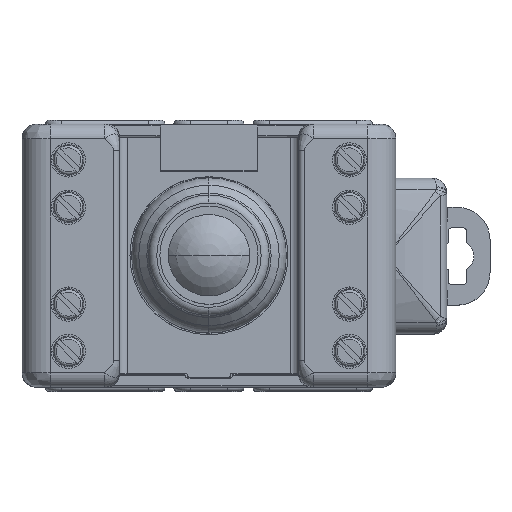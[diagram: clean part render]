
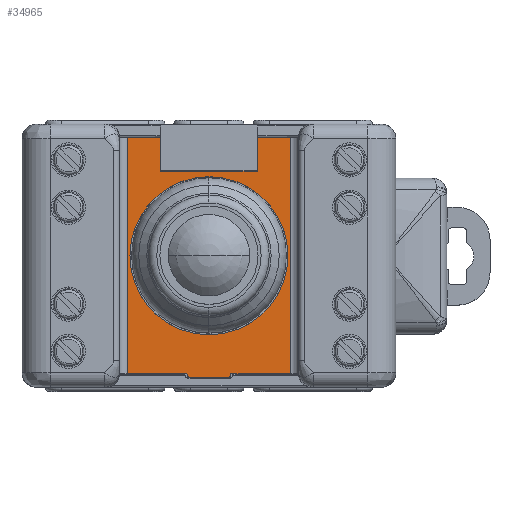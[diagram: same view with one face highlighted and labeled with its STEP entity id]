
A CAD part, top view. The second image highlights one B-rep face of the part: STEP entity #34965.
In plain terms, the highlighted planar face has unit normal (0, 0, 1).
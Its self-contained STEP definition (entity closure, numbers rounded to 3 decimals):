
#1494=DIRECTION('',(0.,-1.,0.));
#1495=VECTOR('',#1494,4.05);
#1496=CARTESIAN_POINT('',(-6.,14.5,0.));
#1497=LINE('',#1496,#1495);
#1498=CARTESIAN_POINT('',(-5.9,10.45,0.));
#1499=DIRECTION('',(0.,0.,-1.));
#1500=DIRECTION('',(0.,-1.,0.));
#1501=AXIS2_PLACEMENT_3D('',#1498,#1499,#1500);
#1503=DIRECTION('',(1.,0.,0.));
#1504=VECTOR('',#1503,11.8);
#1505=CARTESIAN_POINT('',(-5.9,10.35,0.));
#1506=LINE('',#1505,#1504);
#1507=CARTESIAN_POINT('',(5.9,10.45,0.));
#1508=DIRECTION('',(0.,0.,-1.));
#1509=DIRECTION('',(1.,0.,0.));
#1510=AXIS2_PLACEMENT_3D('',#1507,#1508,#1509);
#1512=DIRECTION('',(0.,-1.,0.));
#1513=VECTOR('',#1512,4.05);
#1514=CARTESIAN_POINT('',(6.,14.5,0.));
#1515=LINE('',#1514,#1513);
#1516=DIRECTION('',(-1.,0.,0.));
#1517=VECTOR('',#1516,4.);
#1518=CARTESIAN_POINT('',(10.,14.5,0.));
#1519=LINE('',#1518,#1517);
#1520=DIRECTION('',(-1.,0.,0.));
#1521=VECTOR('',#1520,7.3);
#1522=CARTESIAN_POINT('',(10.,-14.5,0.));
#1523=LINE('',#1522,#1521);
#1524=DIRECTION('',(-1.,0.,0.));
#1525=VECTOR('',#1524,4.4);
#1526=CARTESIAN_POINT('',(2.2,-15.,0.));
#1527=LINE('',#1526,#1525);
#1528=DIRECTION('',(1.,0.,0.));
#1529=VECTOR('',#1528,7.3);
#1530=CARTESIAN_POINT('',(-10.,-14.5,0.));
#1531=LINE('',#1530,#1529);
#1532=DIRECTION('',(1.,0.,0.));
#1533=VECTOR('',#1532,4.);
#1534=CARTESIAN_POINT('',(-10.,14.5,0.));
#1535=LINE('',#1534,#1533);
#1536=CARTESIAN_POINT('',(0.,0.,0.));
#1537=DIRECTION('',(0.,0.,1.));
#1538=DIRECTION('',(1.,0.,0.));
#1539=AXIS2_PLACEMENT_3D('',#1536,#1537,#1538);
#1541=CARTESIAN_POINT('',(0.,0.,0.));
#1542=DIRECTION('',(0.,0.,1.));
#1543=DIRECTION('',(-1.,0.,0.));
#1544=AXIS2_PLACEMENT_3D('',#1541,#1542,#1543);
#1699=DIRECTION('',(0.,1.,0.));
#1700=VECTOR('',#1699,29.);
#1701=CARTESIAN_POINT('',(-10.,-14.5,0.));
#1702=LINE('',#1701,#1700);
#2488=CARTESIAN_POINT('',(-2.2,-14.5,0.));
#2489=DIRECTION('',(0.,0.,1.));
#2490=DIRECTION('',(-1.,0.,0.));
#2491=AXIS2_PLACEMENT_3D('',#2488,#2489,#2490);
#2511=CARTESIAN_POINT('',(2.2,-14.5,0.));
#2512=DIRECTION('',(0.,0.,1.));
#2513=DIRECTION('',(0.,-1.,0.));
#2514=AXIS2_PLACEMENT_3D('',#2511,#2512,#2513);
#3153=DIRECTION('',(0.,1.,0.));
#3154=VECTOR('',#3153,29.);
#3155=CARTESIAN_POINT('',(10.,-14.5,0.));
#3156=LINE('',#3155,#3154);
#28488=CARTESIAN_POINT('',(-10.,-14.5,0.));
#28489=CARTESIAN_POINT('',(-10.,14.5,0.));
#28490=VERTEX_POINT('',#28488);
#28491=VERTEX_POINT('',#28489);
#28500=CARTESIAN_POINT('',(10.,-14.5,0.));
#28501=CARTESIAN_POINT('',(10.,14.5,0.));
#28502=VERTEX_POINT('',#28500);
#28503=VERTEX_POINT('',#28501);
#28640=CARTESIAN_POINT('',(9.7,0.,0.));
#28641=VERTEX_POINT('',#28640);
#28642=CARTESIAN_POINT('',(-9.7,0.,0.));
#28643=VERTEX_POINT('',#28642);
#29079=CARTESIAN_POINT('',(2.2,-15.,0.));
#29080=CARTESIAN_POINT('',(2.7,-14.5,0.));
#29081=VERTEX_POINT('',#29079);
#29082=VERTEX_POINT('',#29080);
#29083=CARTESIAN_POINT('',(-2.7,-14.5,0.));
#29084=CARTESIAN_POINT('',(-2.2,-15.,0.));
#29085=VERTEX_POINT('',#29083);
#29086=VERTEX_POINT('',#29084);
#32881=CARTESIAN_POINT('',(-6.,14.5,0.));
#32882=CARTESIAN_POINT('',(-6.,10.45,0.));
#32883=VERTEX_POINT('',#32881);
#32884=VERTEX_POINT('',#32882);
#32885=CARTESIAN_POINT('',(-5.9,10.35,0.));
#32886=CARTESIAN_POINT('',(5.9,10.35,0.));
#32887=VERTEX_POINT('',#32885);
#32888=VERTEX_POINT('',#32886);
#32889=CARTESIAN_POINT('',(6.,14.5,0.));
#32890=CARTESIAN_POINT('',(6.,10.45,0.));
#32891=VERTEX_POINT('',#32889);
#32892=VERTEX_POINT('',#32890);
#34926=CARTESIAN_POINT('',(-11.,-16.15,0.));
#34927=DIRECTION('',(0.,0.,-1.));
#34928=DIRECTION('',(1.,0.,0.));
#34929=AXIS2_PLACEMENT_3D('',#34926,#34927,#34928);
#34930=PLANE('',#34929);
#34932=ORIENTED_EDGE('',*,*,#34931,.T.);
#34934=ORIENTED_EDGE('',*,*,#34933,.F.);
#34936=ORIENTED_EDGE('',*,*,#34935,.T.);
#34938=ORIENTED_EDGE('',*,*,#34937,.F.);
#34939=ORIENTED_EDGE('',*,*,#34913,.F.);
#34940=ORIENTED_EDGE('',*,*,#34820,.F.);
#34942=ORIENTED_EDGE('',*,*,#34941,.F.);
#34944=ORIENTED_EDGE('',*,*,#34943,.T.);
#34946=ORIENTED_EDGE('',*,*,#34945,.F.);
#34948=ORIENTED_EDGE('',*,*,#34947,.T.);
#34950=ORIENTED_EDGE('',*,*,#34949,.F.);
#34952=ORIENTED_EDGE('',*,*,#34951,.F.);
#34954=ORIENTED_EDGE('',*,*,#34953,.T.);
#34956=ORIENTED_EDGE('',*,*,#34955,.T.);
#34957=EDGE_LOOP('',(#34932,#34934,#34936,#34938,#34939,#34940,#34942,#34944,
#34946,#34948,#34950,#34952,#34954,#34956));
#34958=FACE_OUTER_BOUND('',#34957,.F.);
#34960=ORIENTED_EDGE('',*,*,#34959,.T.);
#34962=ORIENTED_EDGE('',*,*,#34961,.T.);
#34963=EDGE_LOOP('',(#34960,#34962));
#34964=FACE_BOUND('',#34963,.F.);
#34965=ADVANCED_FACE('',(#34958,#34964),#34930,.F.);
#1502=CIRCLE('',#1501,0.1);
#1511=CIRCLE('',#1510,0.1);
#1540=CIRCLE('',#1539,9.7);
#1545=CIRCLE('',#1544,9.7);
#2492=CIRCLE('',#2491,0.5);
#2515=CIRCLE('',#2514,0.5);
#34820=EDGE_CURVE('',#28503,#32891,#1519,.T.);
#34913=EDGE_CURVE('',#32891,#32892,#1515,.T.);
#34931=EDGE_CURVE('',#32883,#32884,#1497,.T.);
#34933=EDGE_CURVE('',#32887,#32884,#1502,.T.);
#34935=EDGE_CURVE('',#32887,#32888,#1506,.T.);
#34937=EDGE_CURVE('',#32892,#32888,#1511,.T.);
#34941=EDGE_CURVE('',#28502,#28503,#3156,.T.);
#34943=EDGE_CURVE('',#28502,#29082,#1523,.T.);
#34945=EDGE_CURVE('',#29081,#29082,#2515,.T.);
#34947=EDGE_CURVE('',#29081,#29086,#1527,.T.);
#34949=EDGE_CURVE('',#29085,#29086,#2492,.T.);
#34951=EDGE_CURVE('',#28490,#29085,#1531,.T.);
#34953=EDGE_CURVE('',#28490,#28491,#1702,.T.);
#34955=EDGE_CURVE('',#28491,#32883,#1535,.T.);
#34959=EDGE_CURVE('',#28641,#28643,#1540,.T.);
#34961=EDGE_CURVE('',#28643,#28641,#1545,.T.);
